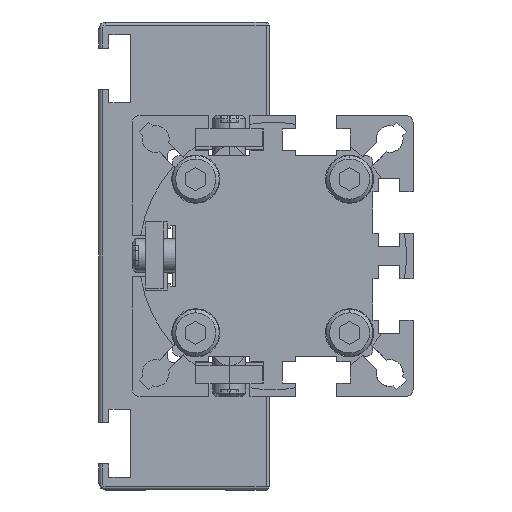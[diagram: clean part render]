
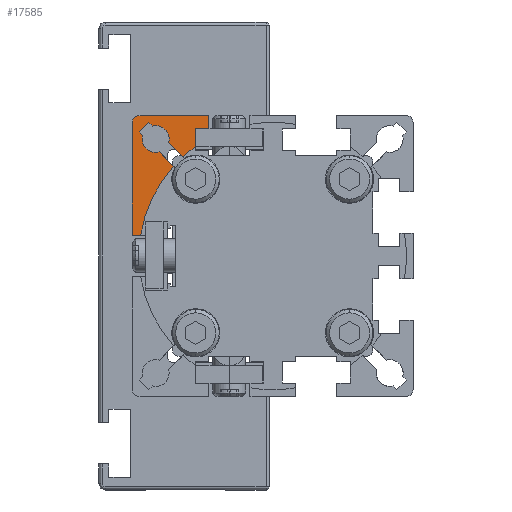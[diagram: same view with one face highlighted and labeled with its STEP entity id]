
A CAD part, left-side view. The second image highlights one B-rep face of the part: STEP entity #17585.
In plain terms, the highlighted planar face has unit normal (-1, 0, 0) as drawn and (1, 0, 0) by its records, which use the part's own axes.
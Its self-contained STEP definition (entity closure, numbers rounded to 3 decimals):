
#63 = DIRECTION ( 'NONE',  ( 0., 0., -1. ) ) ;
#494 = DIRECTION ( 'NONE',  ( 0., 0.707, 0.707 ) ) ;
#833 = ORIENTED_EDGE ( 'NONE', *, *, #4761, .T. ) ;
#1037 = FACE_OUTER_BOUND ( 'NONE', #14219, .T. ) ;
#1174 = CARTESIAN_POINT ( 'NONE',  ( 0., 23.878, -22.464 ) ) ;
#1418 = EDGE_CURVE ( 'NONE', #4215, #6387, #20068, .T. ) ;
#1887 = CARTESIAN_POINT ( 'NONE',  ( 0., 22.464, -23.878 ) ) ;
#2035 = PLANE ( 'NONE',  #3067 ) ;
#2057 = DIRECTION ( 'NONE',  ( 0., 0., 1. ) ) ;
#2240 = ORIENTED_EDGE ( 'NONE', *, *, #13603, .F. ) ;
#2435 = DIRECTION ( 'NONE',  ( -1., 0., 0. ) ) ;
#2665 = LINE ( 'NONE', #23209, #7469 ) ;
#2814 = CARTESIAN_POINT ( 'NONE',  ( 0., 17.5, -19.5 ) ) ;
#3067 = AXIS2_PLACEMENT_3D ( 'NONE', #10302, #12368, #63 ) ;
#3207 = VERTEX_POINT ( 'NONE', #18072 ) ;
#3315 = CARTESIAN_POINT ( 'NONE',  ( 0., 22.464, -23.878 ) ) ;
#3344 = DIRECTION ( 'NONE',  ( 0., -0.707, 0.707 ) ) ;
#3477 = VECTOR ( 'NONE', #2057, 1000. ) ;
#3699 = VECTOR ( 'NONE', #25755, 1000. ) ;
#3938 = DIRECTION ( 'NONE',  ( 0., 0.707, -0.707 ) ) ;
#4075 = LINE ( 'NONE', #15658, #25984 ) ;
#4215 = VERTEX_POINT ( 'NONE', #14513 ) ;
#4338 = ORIENTED_EDGE ( 'NONE', *, *, #5215, .F. ) ;
#4424 = VECTOR ( 'NONE', #9132, 1000. ) ;
#4449 = LINE ( 'NONE', #3315, #14757 ) ;
#4450 = EDGE_CURVE ( 'NONE', #7976, #24211, #19502, .T. ) ;
#4567 = LINE ( 'NONE', #1174, #25203 ) ;
#4761 = EDGE_CURVE ( 'NONE', #19555, #7976, #10238, .T. ) ;
#4812 = CARTESIAN_POINT ( 'NONE',  ( 0., 19.758, -3.1 ) ) ;
#5215 = EDGE_CURVE ( 'NONE', #26674, #6387, #4075, .T. ) ;
#5381 = CARTESIAN_POINT ( 'NONE',  ( 0., 11.6, -19. ) ) ;
#5624 = CARTESIAN_POINT ( 'NONE',  ( 0., 17.5, -17.5 ) ) ;
#5668 = ORIENTED_EDGE ( 'NONE', *, *, #4450, .T. ) ;
#6387 = VERTEX_POINT ( 'NONE', #6555 ) ;
#6434 = AXIS2_PLACEMENT_3D ( 'NONE', #20424, #8078, #22494 ) ;
#6555 = CARTESIAN_POINT ( 'NONE',  ( 0., 19.432, -18.018 ) ) ;
#6680 = ORIENTED_EDGE ( 'NONE', *, *, #22976, .T. ) ;
#6712 = DIRECTION ( 'NONE',  ( 1., 0., 0. ) ) ;
#7332 = CARTESIAN_POINT ( 'NONE',  ( 0., 9.6, -19. ) ) ;
#7355 = DIRECTION ( 'NONE',  ( 0., 0.707, -0.707 ) ) ;
#7378 = DIRECTION ( 'NONE',  ( -1., 0., 0. ) ) ;
#7454 = DIRECTION ( 'NONE',  ( 0., 0.707, -0.707 ) ) ;
#7469 = VECTOR ( 'NONE', #14969, 1000. ) ;
#7507 = CARTESIAN_POINT ( 'NONE',  ( 0., 15.568, -16.982 ) ) ;
#7519 = CARTESIAN_POINT ( 'NONE',  ( 0., 9.6, -21. ) ) ;
#7587 = CARTESIAN_POINT ( 'NONE',  ( 0., 9.6, -46.341 ) ) ;
#7711 = DIRECTION ( 'NONE',  ( 0., 0., -1. ) ) ;
#7776 = ORIENTED_EDGE ( 'NONE', *, *, #9030, .F. ) ;
#7976 = VERTEX_POINT ( 'NONE', #7519 ) ;
#8078 = DIRECTION ( 'NONE',  ( -1., 0., 0. ) ) ;
#8119 = CARTESIAN_POINT ( 'NONE',  ( 0., 18.561, -19.975 ) ) ;
#8149 = DIRECTION ( 'NONE',  ( 0., 0., 1. ) ) ;
#8329 = CARTESIAN_POINT ( 'NONE',  ( 0., 0., 0. ) ) ;
#8634 = AXIS2_PLACEMENT_3D ( 'NONE', #8329, #22749, #10412 ) ;
#8770 = ORIENTED_EDGE ( 'NONE', *, *, #1418, .T. ) ;
#9030 = EDGE_CURVE ( 'NONE', #18560, #26674, #16843, .T. ) ;
#9108 = VERTEX_POINT ( 'NONE', #2814 ) ;
#9132 = DIRECTION ( 'NONE',  ( 0., 1., 0. ) ) ;
#9597 = EDGE_CURVE ( 'NONE', #11384, #24211, #26139, .T. ) ;
#10091 = ORIENTED_EDGE ( 'NONE', *, *, #14197, .F. ) ;
#10238 = LINE ( 'NONE', #7587, #19914 ) ;
#10302 = CARTESIAN_POINT ( 'NONE',  ( 0., 0., -46.341 ) ) ;
#10332 = EDGE_CURVE ( 'NONE', #3207, #18560, #11338, .T. ) ;
#10412 = DIRECTION ( 'NONE',  ( 0., 0., -1. ) ) ;
#10495 = ORIENTED_EDGE ( 'NONE', *, *, #17234, .T. ) ;
#11338 = LINE ( 'NONE', #1887, #22302 ) ;
#11376 = CARTESIAN_POINT ( 'NONE',  ( 0., 0., -21. ) ) ;
#11382 = VECTOR ( 'NONE', #494, 1000. ) ;
#11384 = VERTEX_POINT ( 'NONE', #12514 ) ;
#11415 = CIRCLE ( 'NONE', #6434, 2. ) ;
#11506 = CIRCLE ( 'NONE', #20808, 20. ) ;
#12333 = VERTEX_POINT ( 'NONE', #7507 ) ;
#12368 = DIRECTION ( 'NONE',  ( 1., 0., 0. ) ) ;
#12514 = CARTESIAN_POINT ( 'NONE',  ( 0., 21., -20. ) ) ;
#12896 = AXIS2_PLACEMENT_3D ( 'NONE', #5624, #20070, #7711 ) ;
#13159 = EDGE_CURVE ( 'NONE', #15937, #12333, #4449, .T. ) ;
#13427 = EDGE_CURVE ( 'NONE', #11384, #15458, #19937, .T. ) ;
#13541 = VERTEX_POINT ( 'NONE', #4812 ) ;
#13588 = ORIENTED_EDGE ( 'NONE', *, *, #19717, .F. ) ;
#13603 = EDGE_CURVE ( 'NONE', #19555, #26159, #26334, .T. ) ;
#13758 = VECTOR ( 'NONE', #8149, 1000. ) ;
#13896 = EDGE_CURVE ( 'NONE', #26159, #25620, #19909, .T. ) ;
#14197 = EDGE_CURVE ( 'NONE', #25620, #15937, #11506, .T. ) ;
#14219 = EDGE_LOOP ( 'NONE', ( #23267, #10091, #20651, #2240, #833, #5668, #15149, #23181, #10495, #13588, #6680, #8770, #4338, #7776, #24657, #22859, #18996 ) ) ;
#14513 = CARTESIAN_POINT ( 'NONE',  ( 0., 16.982, -15.568 ) ) ;
#14741 = CARTESIAN_POINT ( 'NONE',  ( 0., 20., -20. ) ) ;
#14757 = VECTOR ( 'NONE', #7454, 1000. ) ;
#14969 = DIRECTION ( 'NONE',  ( 0., -1., 0. ) ) ;
#15149 = ORIENTED_EDGE ( 'NONE', *, *, #9597, .F. ) ;
#15458 = VERTEX_POINT ( 'NONE', #16914 ) ;
#15658 = CARTESIAN_POINT ( 'NONE',  ( 0., 23.878, -22.464 ) ) ;
#15937 = VERTEX_POINT ( 'NONE', #24958 ) ;
#16428 = CARTESIAN_POINT ( 'NONE',  ( 0., 21., -46.341 ) ) ;
#16829 = DIRECTION ( 'NONE',  ( 0., 0., -1. ) ) ;
#16843 = LINE ( 'NONE', #25138, #11382 ) ;
#16895 = EDGE_CURVE ( 'NONE', #9108, #12333, #18095, .T. ) ;
#16914 = CARTESIAN_POINT ( 'NONE',  ( 0., 21., -3.1 ) ) ;
#17020 = VERTEX_POINT ( 'NONE', #18344 ) ;
#17234 = EDGE_CURVE ( 'NONE', #15458, #13541, #2665, .T. ) ;
#17435 = CARTESIAN_POINT ( 'NONE',  ( 0., 0., -19. ) ) ;
#17585 = ADVANCED_FACE ( 'NONE', ( #1037 ), #2035, .T. ) ;
#17959 = DIRECTION ( 'NONE',  ( 0., 0., -1. ) ) ;
#18072 = CARTESIAN_POINT ( 'NONE',  ( 0., 18.018, -19.432 ) ) ;
#18095 = CIRCLE ( 'NONE', #12896, 2. ) ;
#18344 = CARTESIAN_POINT ( 'NONE',  ( 0., 14.832, -13.417 ) ) ;
#18560 = VERTEX_POINT ( 'NONE', #8119 ) ;
#18996 = ORIENTED_EDGE ( 'NONE', *, *, #16895, .T. ) ;
#19093 = CARTESIAN_POINT ( 'NONE',  ( 0., 0., 0. ) ) ;
#19502 = LINE ( 'NONE', #11376, #3699 ) ;
#19555 = VERTEX_POINT ( 'NONE', #7332 ) ;
#19717 = EDGE_CURVE ( 'NONE', #17020, #13541, #21834, .T. ) ;
#19740 = CARTESIAN_POINT ( 'NONE',  ( 0., 17.5, -17.5 ) ) ;
#19909 = LINE ( 'NONE', #20496, #13758 ) ;
#19914 = VECTOR ( 'NONE', #17959, 1000. ) ;
#19937 = LINE ( 'NONE', #16428, #3477 ) ;
#20068 = CIRCLE ( 'NONE', #21935, 2. ) ;
#20070 = DIRECTION ( 'NONE',  ( -1., 0., 0. ) ) ;
#20424 = CARTESIAN_POINT ( 'NONE',  ( 0., 17.5, -17.5 ) ) ;
#20496 = CARTESIAN_POINT ( 'NONE',  ( 0., 11.6, -46.341 ) ) ;
#20651 = ORIENTED_EDGE ( 'NONE', *, *, #13896, .F. ) ;
#20808 = AXIS2_PLACEMENT_3D ( 'NONE', #19093, #6712, #21142 ) ;
#21142 = DIRECTION ( 'NONE',  ( 0., 0., -1. ) ) ;
#21358 = EDGE_CURVE ( 'NONE', #3207, #9108, #11415, .T. ) ;
#21814 = DIRECTION ( 'NONE',  ( 0., 0., -1. ) ) ;
#21834 = CIRCLE ( 'NONE', #8634, 20. ) ;
#21935 = AXIS2_PLACEMENT_3D ( 'NONE', #19740, #7378, #21814 ) ;
#22101 = CARTESIAN_POINT ( 'NONE',  ( 0., 11.6, -16.292 ) ) ;
#22302 = VECTOR ( 'NONE', #3938, 1000. ) ;
#22430 = CARTESIAN_POINT ( 'NONE',  ( 0., 19.975, -18.561 ) ) ;
#22494 = DIRECTION ( 'NONE',  ( 0., 0., -1. ) ) ;
#22622 = AXIS2_PLACEMENT_3D ( 'NONE', #14741, #2435, #16829 ) ;
#22749 = DIRECTION ( 'NONE',  ( 1., 0., 0. ) ) ;
#22859 = ORIENTED_EDGE ( 'NONE', *, *, #21358, .T. ) ;
#22976 = EDGE_CURVE ( 'NONE', #17020, #4215, #4567, .T. ) ;
#23181 = ORIENTED_EDGE ( 'NONE', *, *, #13427, .T. ) ;
#23209 = CARTESIAN_POINT ( 'NONE',  ( 0., 0., -3.1 ) ) ;
#23267 = ORIENTED_EDGE ( 'NONE', *, *, #13159, .F. ) ;
#24211 = VERTEX_POINT ( 'NONE', #25112 ) ;
#24657 = ORIENTED_EDGE ( 'NONE', *, *, #10332, .F. ) ;
#24958 = CARTESIAN_POINT ( 'NONE',  ( 0., 13.417, -14.832 ) ) ;
#25112 = CARTESIAN_POINT ( 'NONE',  ( 0., 20., -21. ) ) ;
#25138 = CARTESIAN_POINT ( 'NONE',  ( 0., -3.903, -42.438 ) ) ;
#25203 = VECTOR ( 'NONE', #7355, 1000. ) ;
#25620 = VERTEX_POINT ( 'NONE', #22101 ) ;
#25755 = DIRECTION ( 'NONE',  ( 0., 1., 0. ) ) ;
#25984 = VECTOR ( 'NONE', #3344, 1000. ) ;
#26139 = CIRCLE ( 'NONE', #22622, 1. ) ;
#26159 = VERTEX_POINT ( 'NONE', #5381 ) ;
#26334 = LINE ( 'NONE', #17435, #4424 ) ;
#26674 = VERTEX_POINT ( 'NONE', #22430 ) ;
